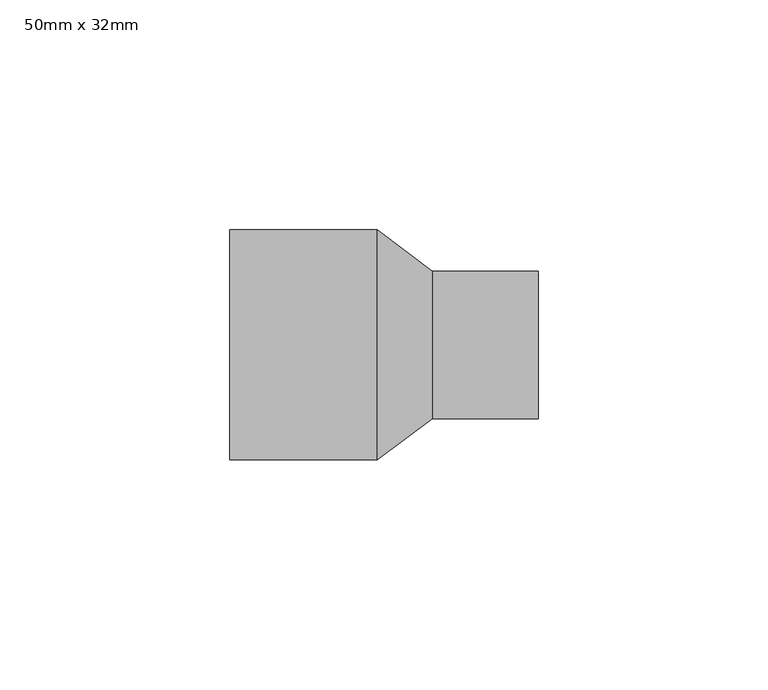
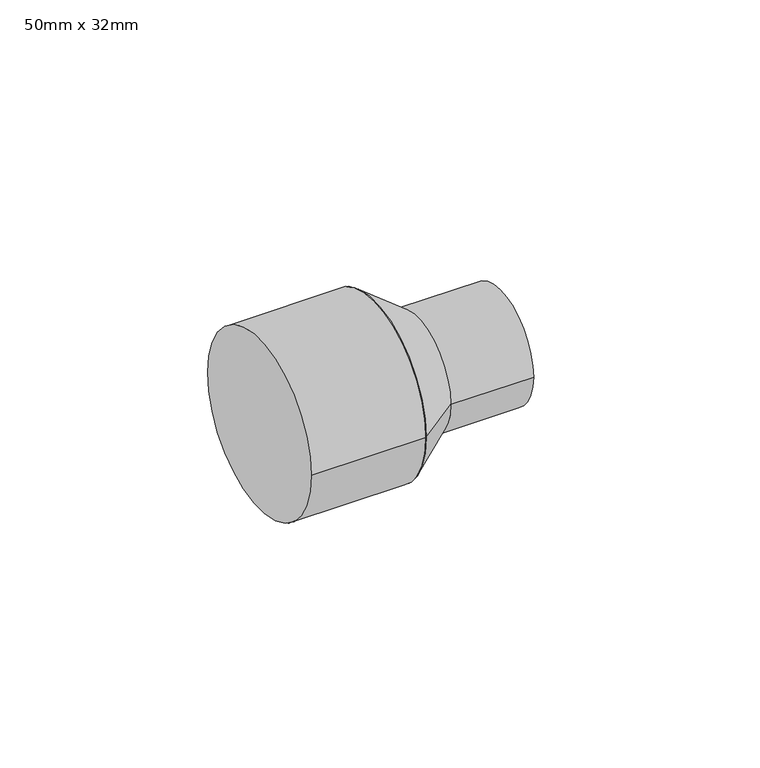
"""IFC4 building model written with IfcOpenShell, lengths in millimetres: pipe fitting geometry, PipeFitting_HTA_CPVC_ReducingBushesLongPattern : 50mm x 32mm."""

from ifc_helpers import new_model, si_unit, point, frame, origin, origin_2d, place, context, project, spatial, polyline, circle_curve, trimmed, segment, composite_curve, outline, extrude, source, transform, mapped, element, save
from ifc_brep_helpers import plane_surface, revolved_surface, advanced_brep


def pipe_fitting_50mm_x_32mm_b0839a40(model_context):
    return source(origin(), model_context, "Body", "SolidModel", [
        advanced_brep(
        [(44.0, -16.0, 0.0), (44.0, 16.0, 0.0), (32.0, -25.0, 0.0), (32.0, 25.0, 0.0)],
        [
            (0, 1, circle_curve(frame((44.0, 0.0, 0.0), z_axis=(1.0, 0.0, 0.0), x_axis=(0.0, -1.0, 0.0)), 16.0)),
            (1, 0, circle_curve(frame((44.0, 0.0, 0.0), z_axis=(1.0, 0.0, 0.0), x_axis=(0.0, 1.0, 0.0)), 16.0)),
            (2, 3, circle_curve(frame((32.0, 0.0, 0.0), z_axis=(-1.0, 0.0, 0.0), x_axis=(0.0, 1.0, 0.0)), 25.0)),
            (3, 2, circle_curve(frame((32.0, 0.0, 0.0), z_axis=(-1.0, 0.0, 0.0), x_axis=(0.0, -1.0, 0.0)), 25.0)),
            (3, 1),
            (0, 2),
        ],
        [
            plane_surface(frame((44.0, 0.0, 0.0), z_axis=(1.0, 0.0, 0.0), x_axis=(0.0, 0.0, -1.0))),
            plane_surface(frame((32.0, 0.0, 0.0), z_axis=(-1.0, 0.0, 0.0), x_axis=(0.0, 0.0, -1.0))),
            revolved_surface(polyline([(44.0, -15.999999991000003, 0.0), (32.0, -25.0, 0.0)]), (65.3333333, 0.0, 0.0), (-1.0, 0.0, 0.0)),
            revolved_surface(polyline([(44.0, 15.999999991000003, 0.0), (32.0, 25.0, 0.0)]), (65.3333333, 0.0, 0.0), (-1.0, 0.0, 0.0)),
        ],
        [
            (0, [[1, 2]]),
            (1, [[3, 4]]),
            (2, [[-4, 5, -1, 6]]),
            (3, [[-3, -6, -2, -5]]),
        ],
    ),
        extrude(outline(composite_curve([segment(trimmed(circle_curve(origin_2d(), 16.0), [point((-16.0, 0.0))], [point((16.0, 0.0))], False, "CARTESIAN"), True, "CONTINUOUS"), segment(trimmed(circle_curve(origin_2d(), 16.0), [point((16.0, 0.0))], [point((-16.0, 0.0))], False, "CARTESIAN"), True, "CONTINUOUS")], self_intersect=False)), frame((44.0, 0.0, 0.0), z_axis=(1.0, 0.0, 0.0), x_axis=(0.0, 1.0, 0.0)), (0.0, 0.0, 1.0), 23.0),
        extrude(outline(composite_curve([segment(trimmed(circle_curve(origin_2d(), 25.0), [point((-25.0, 0.0))], [point((25.0, 0.0))], False, "CARTESIAN"), True, "CONTINUOUS"), segment(trimmed(circle_curve(origin_2d(), 25.0), [point((25.0, 0.0))], [point((-25.0, 0.0))], False, "CARTESIAN"), True, "CONTINUOUS")], self_intersect=False)), frame((0.0, 0.0, 0.0), z_axis=(1.0, 0.0, 0.0), x_axis=(0.0, 1.0, 0.0)), (0.0, 0.0, 1.0), 32.0),
    ])


if __name__ == "__main__":
    model = new_model("IFC4")
    model_context = context("Model", 3, world=origin())
    ifc_project = project(units=[si_unit("LENGTHUNIT", "METRE", prefix="MILLI")], contexts=[model_context])
    site = spatial("IfcSite", under=ifc_project)
    building = spatial("IfcBuilding", under=site)
    placement = place(None, origin())
    pipe_fitting_50mm_x_32mm_shape = pipe_fitting_50mm_x_32mm_b0839a40(model_context)
    element("IfcPipeFitting", 1, ObjectType="PipeFitting_HTA_CPVC_ReducingBushesLongPattern : 50mm x 32mm", at=placement, inside=building, context=model_context, shape_type="MappedRepresentation", body=[
        mapped(pipe_fitting_50mm_x_32mm_shape, transform((0.0, 0.0, 0.0), x_axis=(1.0, 0.0, 0.0), y_axis=(0.0, 1.0, 0.0), z_axis=(0.0, 0.0, 1.0))),
    ])
    save(model, "model.ifc")
